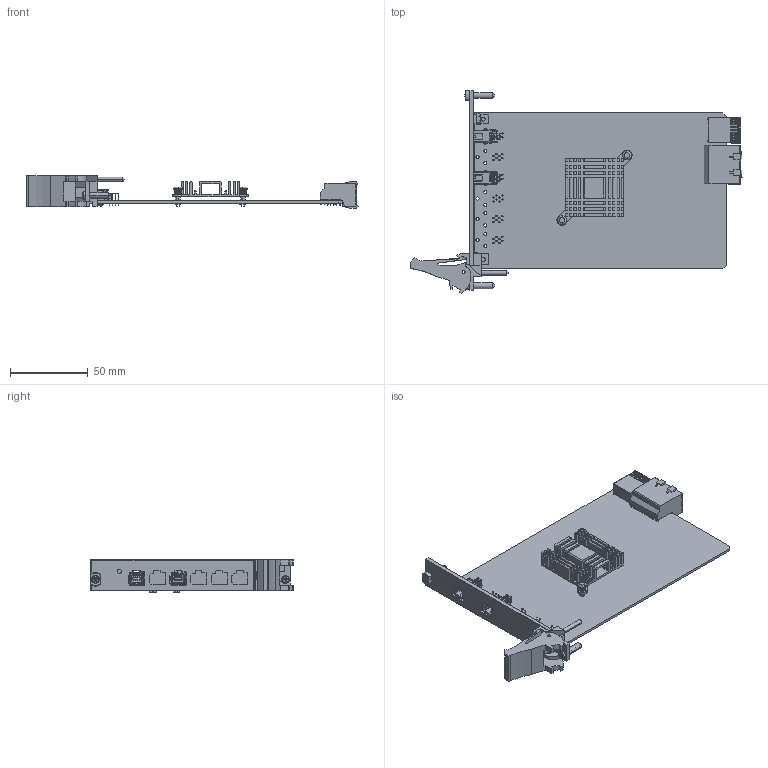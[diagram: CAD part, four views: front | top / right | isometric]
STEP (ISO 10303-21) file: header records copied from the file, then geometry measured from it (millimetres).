
FILE_DESCRIPTION((''),'2;1');
FILE_NAME('CU_PXIE-8510-2CH','2017-08-15T',('huydo'),(''),'CREO PARAMETRIC BY PTC INC, 2015380','CREO PARAMETRIC BY PTC INC, 2015380','');
FILE_SCHEMA(('CONFIG_CONTROL_DESIGN'));
Products named in the file (1): CU_PXIE-8510-2CH
Bounding box: 213.82 x 130.5 x 20.78 mm (x, y, z)
Volume: 55382.7 mm3; surface area: 62344.8 mm2
Topology: 3 solids, 7 shells, 4644 faces, 12853 edges, 8468 vertices
Faces by surface type: plane 3663, cylinder 931, cone 26, torus 8, sphere 8, bspline 8
Entity records: 156748 total; most frequent: CARTESIAN_POINT 37623, ORIENTED_EDGE 25682, DIRECTION 22813, EDGE_CURVE 12841, VECTOR 9783, LINE 9783, VERTEX_POINT 8468, AXIS2_PLACEMENT_3D 6515
